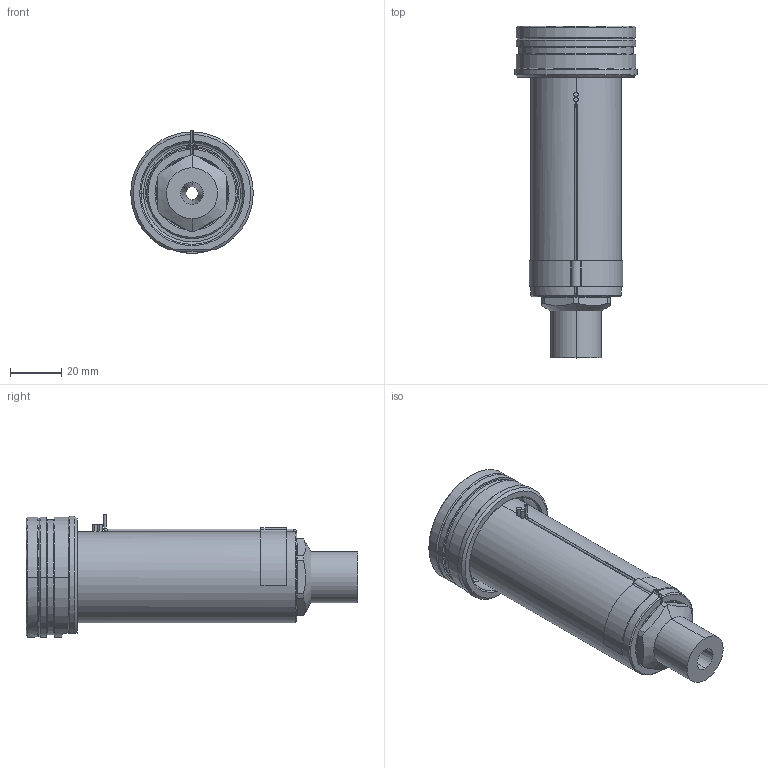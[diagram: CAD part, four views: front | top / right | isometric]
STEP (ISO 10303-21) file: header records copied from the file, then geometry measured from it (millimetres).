
FILE_DESCRIPTION((''),'2;1');
FILE_NAME('EO16_VG-ST_ESG_100_SW','2024-02-19T12:57:24',('sundharh'),(''),'CREO PARAMETRIC BY PTC INC, 2023154','CREO PARAMETRIC BY PTC INC, 2023154','');
FILE_SCHEMA(('CONFIG_CONTROL_DESIGN'));
Length unit declared in the file: millimetre
Products named in the file (1): EO16_VG-ST_ESG_100_SW
Bounding box: 47.97 x 130 x 48 mm (x, y, z)
Volume: 104172 mm3; surface area: 27449.6 mm2
Topology: 1 solids, 1 shells, 169 faces, 418 edges, 256 vertices
Faces by surface type: cylinder 64, plane 45, cone 35, torus 14, bspline 9, sphere 2
Entity records: 5784 total; most frequent: CARTESIAN_POINT 1698, DIRECTION 906, ORIENTED_EDGE 824, EDGE_CURVE 412, AXIS2_PLACEMENT_3D 374, VERTEX_POINT 256, CIRCLE 214, EDGE_LOOP 184
